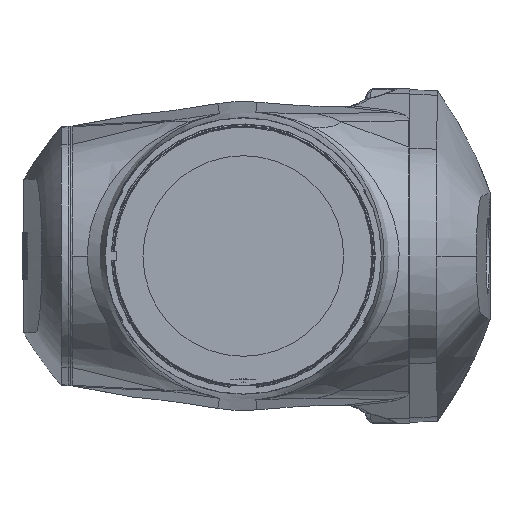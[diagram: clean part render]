
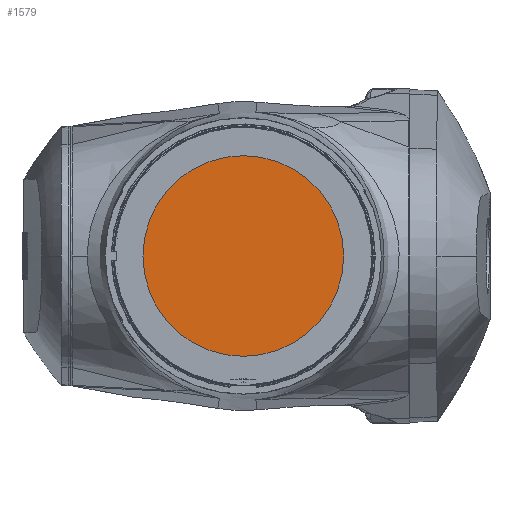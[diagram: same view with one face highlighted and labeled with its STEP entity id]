
A CAD part, left-side view. The second image highlights one B-rep face of the part: STEP entity #1579.
In plain terms, the highlighted planar face has unit normal (-1, 0, 0).
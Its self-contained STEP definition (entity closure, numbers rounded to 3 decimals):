
#1579 = ADVANCED_FACE ( 'NONE', ( #3818 ), #3356, .T. ) ;
#3356 = PLANE ( 'NONE',  #17496 ) ;
#3617 = VERTEX_POINT ( 'NONE', #33085 ) ;
#3818 = FACE_OUTER_BOUND ( 'NONE', #37338, .T. ) ;
#4502 = DIRECTION ( 'NONE',  ( -1., 0., 0. ) ) ;
#7396 = DIRECTION ( 'NONE',  ( 0., -1., 0. ) ) ;
#9971 = DIRECTION ( 'NONE',  ( -1., 0., 0. ) ) ;
#10295 = EDGE_CURVE ( 'NONE', #3617, #40390, #36294, .T. ) ;
#17496 = AXIS2_PLACEMENT_3D ( 'NONE', #34741, #31534, #20996 ) ;
#18189 = EDGE_CURVE ( 'NONE', #40390, #3617, #31870, .T. ) ;
#18486 = DIRECTION ( 'NONE',  ( 0., -1., 0. ) ) ;
#20996 = DIRECTION ( 'NONE',  ( 0., -1., 0. ) ) ;
#21916 = ORIENTED_EDGE ( 'NONE', *, *, #10295, .T. ) ;
#21923 = CARTESIAN_POINT ( 'NONE',  ( 187., 0., 2150. ) ) ;
#29314 = ORIENTED_EDGE ( 'NONE', *, *, #18189, .T. ) ;
#31534 = DIRECTION ( 'NONE',  ( -1., 0., 0. ) ) ;
#31870 = CIRCLE ( 'NONE', #36967, 85. ) ;
#33085 = CARTESIAN_POINT ( 'NONE',  ( 187., 85., 2150. ) ) ;
#34741 = CARTESIAN_POINT ( 'NONE',  ( 187., 0., 2150. ) ) ;
#36294 = CIRCLE ( 'NONE', #44304, 85. ) ;
#36967 = AXIS2_PLACEMENT_3D ( 'NONE', #21923, #4502, #18486 ) ;
#37338 = EDGE_LOOP ( 'NONE', ( #21916, #29314 ) ) ;
#40390 = VERTEX_POINT ( 'NONE', #42860 ) ;
#41271 = CARTESIAN_POINT ( 'NONE',  ( 187., 0., 2150. ) ) ;
#42860 = CARTESIAN_POINT ( 'NONE',  ( 187., -85., 2150. ) ) ;
#44304 = AXIS2_PLACEMENT_3D ( 'NONE', #41271, #9971, #7396 ) ;
